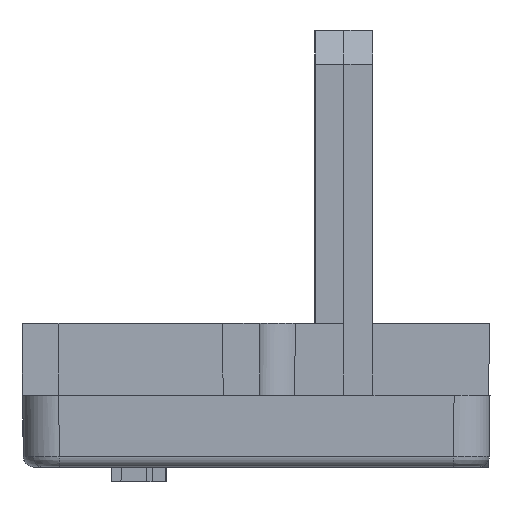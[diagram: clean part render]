
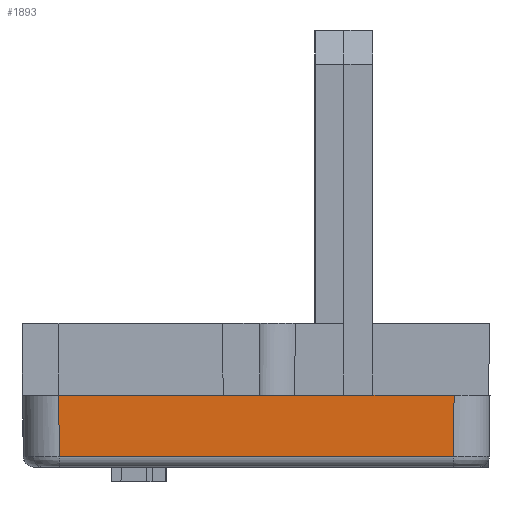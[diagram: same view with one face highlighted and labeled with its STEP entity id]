
A CAD part, left-side view. The second image highlights one B-rep face of the part: STEP entity #1893.
In plain terms, the highlighted planar face has unit normal (-1, 0, -0.009).
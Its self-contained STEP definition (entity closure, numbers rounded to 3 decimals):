
#446 = LINE ( 'NONE', #10004, #5001 ) ;
#794 = FACE_OUTER_BOUND ( 'NONE', #1020, .T. ) ;
#1011 = ORIENTED_EDGE ( 'NONE', *, *, #4013, .T. ) ;
#1020 = EDGE_LOOP ( 'NONE', ( #1011, #2402, #1418, #6181 ) ) ;
#1334 = CARTESIAN_POINT ( 'NONE',  ( -0.005, 0.995, 0.297 ) ) ;
#1418 = ORIENTED_EDGE ( 'NONE', *, *, #8949, .T. ) ;
#1893 = ADVANCED_FACE ( 'NONE', ( #794 ), #11039, .T. ) ;
#1989 = LINE ( 'NONE', #5789, #6185 ) ;
#2087 = CARTESIAN_POINT ( 'NONE',  ( -0.002, 11.961, -0.104 ) ) ;
#2173 = CARTESIAN_POINT ( 'NONE',  ( -0.006, 11.965, 0.297 ) ) ;
#2315 = CARTESIAN_POINT ( 'NONE',  ( -0.02, 0.98, 2. ) ) ;
#2322 = DIRECTION ( 'NONE',  ( 0., 1., 0. ) ) ;
#2402 = ORIENTED_EDGE ( 'NONE', *, *, #6438, .T. ) ;
#2591 = LINE ( 'NONE', #2087, #6870 ) ;
#3054 = LINE ( 'NONE', #4985, #4800 ) ;
#4013 = EDGE_CURVE ( 'NONE', #9192, #10841, #2591, .T. ) ;
#4534 = DIRECTION ( 'NONE',  ( -1., 0., -0.009 ) ) ;
#4800 = VECTOR ( 'NONE', #8825, 1000. ) ;
#4985 = CARTESIAN_POINT ( 'NONE',  ( -0.003, 0.997, 0.009 ) ) ;
#5001 = VECTOR ( 'NONE', #2322, 1000. ) ;
#5789 = CARTESIAN_POINT ( 'NONE',  ( -0.005, 0.997, 0.297 ) ) ;
#5908 = DIRECTION ( 'NONE',  ( 0., -1., 0. ) ) ;
#6164 = EDGE_CURVE ( 'NONE', #9764, #9192, #446, .T. ) ;
#6181 = ORIENTED_EDGE ( 'NONE', *, *, #6164, .T. ) ;
#6185 = VECTOR ( 'NONE', #5908, 1000. ) ;
#6438 = EDGE_CURVE ( 'NONE', #10841, #12051, #1989, .T. ) ;
#6870 = VECTOR ( 'NONE', #12059, 1000. ) ;
#7066 = AXIS2_PLACEMENT_3D ( 'NONE', #9124, #4534, #10236 ) ;
#8825 = DIRECTION ( 'NONE',  ( -0.009, -0.009, 1. ) ) ;
#8949 = EDGE_CURVE ( 'NONE', #12051, #9764, #3054, .T. ) ;
#9124 = CARTESIAN_POINT ( 'NONE',  ( -0.003, -0.003, 0. ) ) ;
#9192 = VERTEX_POINT ( 'NONE', #10905 ) ;
#9764 = VERTEX_POINT ( 'NONE', #2315 ) ;
#10004 = CARTESIAN_POINT ( 'NONE',  ( -0.02, -0.003, 2. ) ) ;
#10236 = DIRECTION ( 'NONE',  ( -0.009, 0., 1. ) ) ;
#10841 = VERTEX_POINT ( 'NONE', #2173 ) ;
#10905 = CARTESIAN_POINT ( 'NONE',  ( -0.021, 11.98, 2. ) ) ;
#11039 = PLANE ( 'NONE',  #7066 ) ;
#12051 = VERTEX_POINT ( 'NONE', #1334 ) ;
#12059 = DIRECTION ( 'NONE',  ( 0.009, -0.009, -1. ) ) ;
